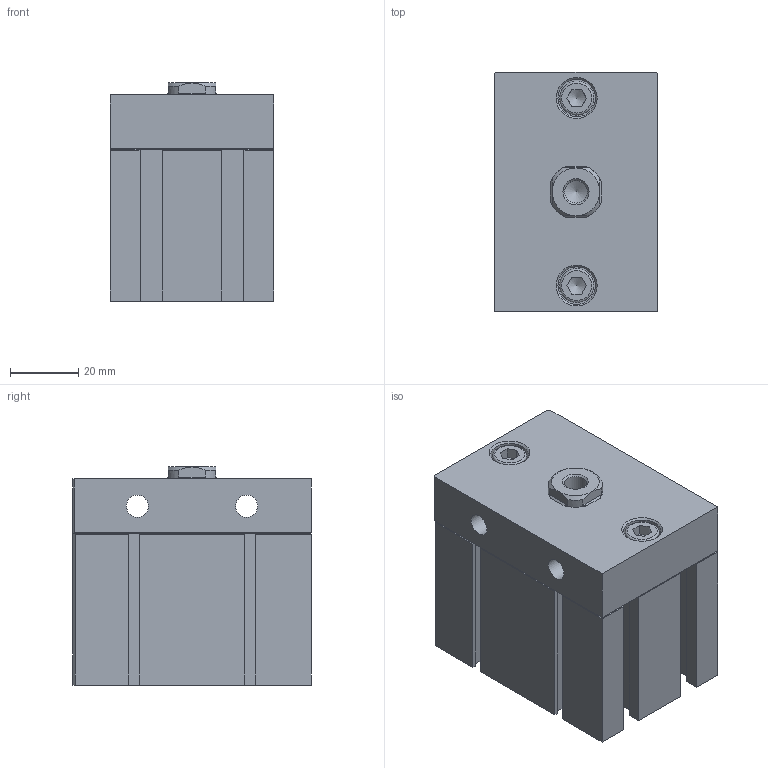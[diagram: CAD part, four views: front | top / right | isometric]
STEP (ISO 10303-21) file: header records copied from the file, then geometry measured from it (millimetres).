
FILE_DESCRIPTION((''),'2;1');
FILE_NAME('I:\3D電子目錄\氣缸\ND\ND\ND40\ND40.stp','2007-07-30T19:04:49',('Administrator'),(''),'Autodesk Inventor 11','Autodesk Inventor 11','');
FILE_SCHEMA(('AUTOMOTIVE_DESIGN { 1 0 10303 214 1 1 1 1 }'));
Length unit declared in the file: millimetre
Products named in the file (4): ND40; R 形環 42; ISO 4762 M6 x 20
Assembly tree (4 placements, depth 2):
  ND40
    ND40
    R 形環 42
    ISO 4762 M6 x 20  x2
Bounding box: 48 x 70.1 x 64 mm (x, y, z)
Volume: 179719.6 mm3; surface area: 35601.8 mm2
Topology: 5 solids, 5 shells, 195 faces, 467 edges, 297 vertices
Faces by surface type: plane 133, cylinder 25, cone 18, bspline 16, torus 3
Full cylindrical faces by diameter (mm): 1.9 x2, 2.2 x2, 6 x2, 6.5 x2, 10 x2, 11 x2, 29 x1, 42 x1, 44.5 x1
Entity records: 5217 total; most frequent: CARTESIAN_POINT 1095, DIRECTION 812, ORIENTED_EDGE 782, EDGE_CURVE 391, VECTOR 288, LINE 288, VERTEX_POINT 271, AXIS2_PLACEMENT_3D 262
